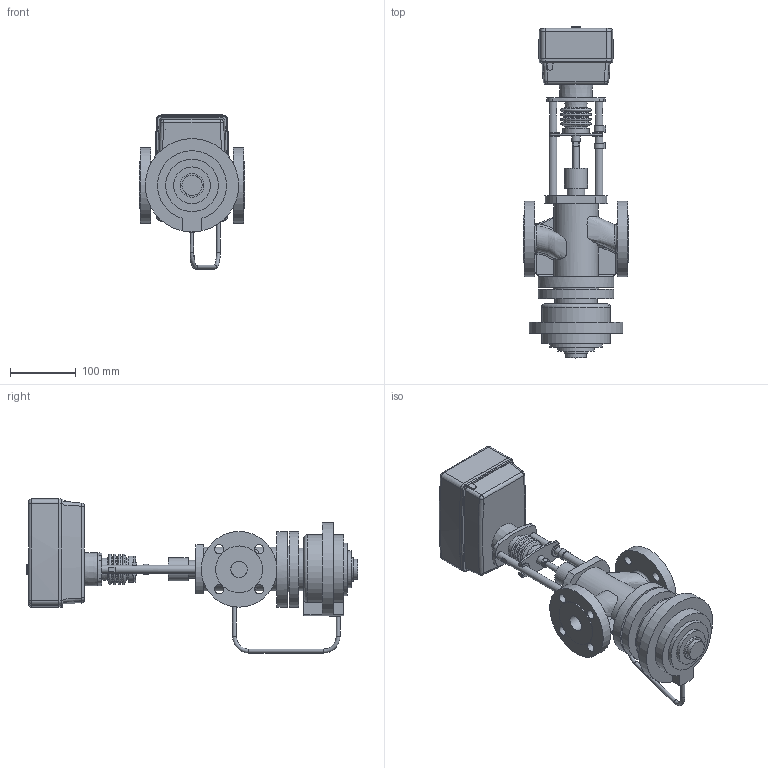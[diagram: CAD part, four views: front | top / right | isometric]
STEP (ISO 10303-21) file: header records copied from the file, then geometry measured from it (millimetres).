
FILE_DESCRIPTION(/* description */ ('Unknown'),/* implementation_level */ '2;1');
FILE_NAME(/* name */ 'Клапан TVC-25-101',/* time_stamp */ '2021-11-23T11:11:54+03:00',/* author */ ('Unknown'),/* organization */ ('Unknown'),/* preprocessor_version */ 'ST-DEVELOPER v16.7',/* originating_system */ 'DEX',/* authorisation */ $);
FILE_SCHEMA (('AUTOMOTIVE_DESIGN {1 0 10303 214 3 1 1}'));
Length unit declared in the file: millimetre
Products named in the file (1): 抔黽鳧 TVC-25-101
Bounding box: 160 x 504.71 x 234.22 mm (x, y, z)
Volume: 3619049.5 mm3; surface area: 321535.8 mm2
Topology: 1 solids, 2 shells, 410 faces, 1046 edges, 666 vertices
Faces by surface type: plane 179, cylinder 110, torus 48, bspline 40, cone 22, sphere 11
Full cylindrical faces by diameter (mm): 4 x1, 6 x3, 8 x1, 9.164 x1, 12.002 x4, 13 x1, 14 x8, 15 x1, 18 x2, 25 x2, 27 x1, 30.68 x1, 33.4 x1, 33.972 x1, 35 x1, 36 x1, 40 x1, 56 x1, 64.624 x1, 67.274 x1, 70.099 x1, 71 x2, 80 x1, 115 x4, 142 x1
Entity records: 18214 total; most frequent: CARTESIAN_POINT 6173, DIRECTION 1858, ORIENTED_EDGE 1828, EDGE_CURVE 914, AXIS2_PLACEMENT_3D 748, VERTEX_POINT 616, EDGE_LOOP 544, FACE_BOUND 544
